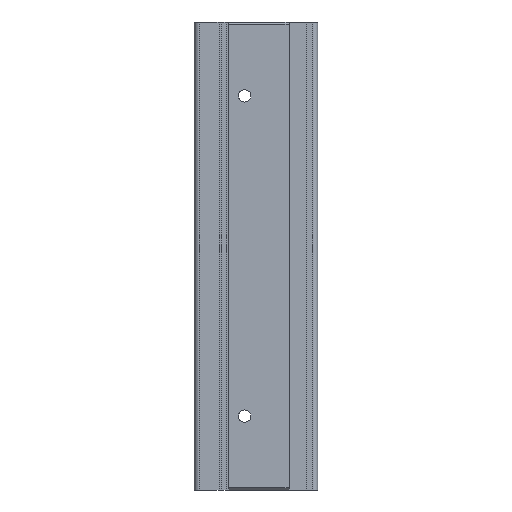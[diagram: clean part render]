
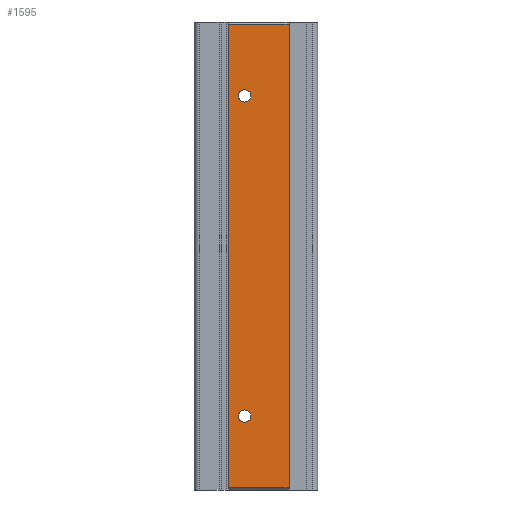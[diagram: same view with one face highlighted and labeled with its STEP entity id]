
A CAD part, left-side view. The second image highlights one B-rep face of the part: STEP entity #1595.
In plain terms, the highlighted planar face has unit normal (-1, 0, 0).
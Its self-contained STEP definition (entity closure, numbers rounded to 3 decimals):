
#266 = FACE_BOUND ( 'NONE', #10747, .T. ) ;
#278 = CARTESIAN_POINT ( 'NONE',  ( -28., 14.8, 32.5 ) ) ;
#465 = AXIS2_PLACEMENT_3D ( 'NONE', #2615, #2568, #6883 ) ;
#694 = CARTESIAN_POINT ( 'NONE',  ( -28., 18., -47. ) ) ;
#794 = CIRCLE ( 'NONE', #10672, 1.25 ) ;
#842 = EDGE_CURVE ( 'NONE', #9286, #9986, #9989, .T. ) ;
#959 = AXIS2_PLACEMENT_3D ( 'NONE', #278, #4445, #6936 ) ;
#1078 = EDGE_CURVE ( 'NONE', #10144, #10485, #4790, .T. ) ;
#1136 = AXIS2_PLACEMENT_3D ( 'NONE', #2509, #7506, #10268 ) ;
#1357 = EDGE_CURVE ( 'NONE', #5318, #10144, #2544, .T. ) ;
#1581 = EDGE_LOOP ( 'NONE', ( #10425, #6111 ) ) ;
#1595 = ADVANCED_FACE ( 'NONE', ( #1991, #266, #2794 ), #7168, .T. ) ;
#1615 = CARTESIAN_POINT ( 'NONE',  ( -28., 5.8, 47. ) ) ;
#1907 = CARTESIAN_POINT ( 'NONE',  ( -28., 18., 47.5 ) ) ;
#1990 = DIRECTION ( 'NONE',  ( 0., 0., -1. ) ) ;
#1991 = FACE_BOUND ( 'NONE', #1581, .T. ) ;
#2047 = DIRECTION ( 'NONE',  ( 0., 0., 1. ) ) ;
#2404 = CARTESIAN_POINT ( 'NONE',  ( -28., 14.8, 31.25 ) ) ;
#2429 = EDGE_CURVE ( 'NONE', #6684, #6520, #794, .T. ) ;
#2509 = CARTESIAN_POINT ( 'NONE',  ( -28., 14.8, 32.5 ) ) ;
#2544 = LINE ( 'NONE', #8253, #10683 ) ;
#2565 = VECTOR ( 'NONE', #1990, 1000. ) ;
#2568 = DIRECTION ( 'NONE',  ( -1., 0., 0. ) ) ;
#2615 = CARTESIAN_POINT ( 'NONE',  ( -28., 14.8, -32.5 ) ) ;
#2794 = FACE_OUTER_BOUND ( 'NONE', #4543, .T. ) ;
#2898 = CARTESIAN_POINT ( 'NONE',  ( -28., 5.8, -47. ) ) ;
#3436 = VECTOR ( 'NONE', #5333, 1000. ) ;
#3512 = ORIENTED_EDGE ( 'NONE', *, *, #2429, .F. ) ;
#3539 = DIRECTION ( 'NONE',  ( 0., 0., 1. ) ) ;
#4053 = DIRECTION ( 'NONE',  ( 0., 1., 0. ) ) ;
#4281 = VERTEX_POINT ( 'NONE', #10159 ) ;
#4445 = DIRECTION ( 'NONE',  ( -1., 0., 0. ) ) ;
#4543 = EDGE_LOOP ( 'NONE', ( #10878, #10103, #9656, #6253 ) ) ;
#4748 = LINE ( 'NONE', #9187, #8971 ) ;
#4790 = LINE ( 'NONE', #1907, #2565 ) ;
#5318 = VERTEX_POINT ( 'NONE', #1615 ) ;
#5333 = DIRECTION ( 'NONE',  ( 0., -1., 0. ) ) ;
#5666 = AXIS2_PLACEMENT_3D ( 'NONE', #8193, #9585, #2047 ) ;
#5848 = CARTESIAN_POINT ( 'NONE',  ( -28., 14.8, -33.75 ) ) ;
#6015 = EDGE_CURVE ( 'NONE', #5318, #4281, #4748, .T. ) ;
#6111 = ORIENTED_EDGE ( 'NONE', *, *, #9533, .F. ) ;
#6253 = ORIENTED_EDGE ( 'NONE', *, *, #6961, .T. ) ;
#6520 = VERTEX_POINT ( 'NONE', #9819 ) ;
#6684 = VERTEX_POINT ( 'NONE', #5848 ) ;
#6883 = DIRECTION ( 'NONE',  ( 0., 0., 1. ) ) ;
#6936 = DIRECTION ( 'NONE',  ( 0., 0., 1. ) ) ;
#6961 = EDGE_CURVE ( 'NONE', #10485, #4281, #9737, .T. ) ;
#7007 = CARTESIAN_POINT ( 'NONE',  ( -28., 18., 47. ) ) ;
#7168 = PLANE ( 'NONE',  #5666 ) ;
#7414 = CARTESIAN_POINT ( 'NONE',  ( -28., 14.8, 33.75 ) ) ;
#7506 = DIRECTION ( 'NONE',  ( -1., 0., 0. ) ) ;
#7765 = CIRCLE ( 'NONE', #465, 1.25 ) ;
#8102 = ORIENTED_EDGE ( 'NONE', *, *, #10662, .F. ) ;
#8193 = CARTESIAN_POINT ( 'NONE',  ( -28., 0., 47.5 ) ) ;
#8253 = CARTESIAN_POINT ( 'NONE',  ( -28., 0., 47. ) ) ;
#8582 = CARTESIAN_POINT ( 'NONE',  ( -28., 14.8, -32.5 ) ) ;
#8971 = VECTOR ( 'NONE', #9909, 1000. ) ;
#9187 = CARTESIAN_POINT ( 'NONE',  ( -28., 5.8, 47.5 ) ) ;
#9286 = VERTEX_POINT ( 'NONE', #7414 ) ;
#9394 = DIRECTION ( 'NONE',  ( -1., 0., 0. ) ) ;
#9533 = EDGE_CURVE ( 'NONE', #9986, #9286, #10532, .T. ) ;
#9585 = DIRECTION ( 'NONE',  ( -1., 0., 0. ) ) ;
#9656 = ORIENTED_EDGE ( 'NONE', *, *, #1078, .T. ) ;
#9737 = LINE ( 'NONE', #2898, #3436 ) ;
#9819 = CARTESIAN_POINT ( 'NONE',  ( -28., 14.8, -31.25 ) ) ;
#9909 = DIRECTION ( 'NONE',  ( 0., 0., -1. ) ) ;
#9986 = VERTEX_POINT ( 'NONE', #2404 ) ;
#9989 = CIRCLE ( 'NONE', #1136, 1.25 ) ;
#10103 = ORIENTED_EDGE ( 'NONE', *, *, #1357, .T. ) ;
#10144 = VERTEX_POINT ( 'NONE', #7007 ) ;
#10159 = CARTESIAN_POINT ( 'NONE',  ( -28., 5.8, -47. ) ) ;
#10268 = DIRECTION ( 'NONE',  ( 0., 0., 1. ) ) ;
#10425 = ORIENTED_EDGE ( 'NONE', *, *, #842, .F. ) ;
#10485 = VERTEX_POINT ( 'NONE', #694 ) ;
#10532 = CIRCLE ( 'NONE', #959, 1.25 ) ;
#10662 = EDGE_CURVE ( 'NONE', #6520, #6684, #7765, .T. ) ;
#10672 = AXIS2_PLACEMENT_3D ( 'NONE', #8582, #9394, #3539 ) ;
#10683 = VECTOR ( 'NONE', #4053, 1000. ) ;
#10747 = EDGE_LOOP ( 'NONE', ( #8102, #3512 ) ) ;
#10878 = ORIENTED_EDGE ( 'NONE', *, *, #6015, .F. ) ;
